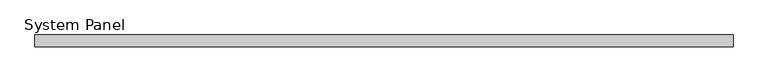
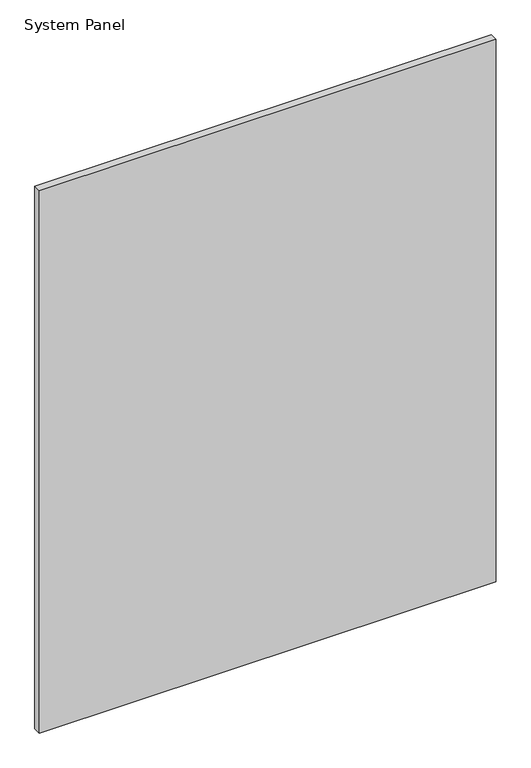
"""IFC4 building model written with IfcOpenShell, lengths in millimetres: plate geometry, System Panel : Panel_Glazed_Generic Showcase_30mm."""

from ifc_helpers import new_model, si_unit, origin, origin_with_axes, place, context, project, spatial, polyline, outline, extrude, source, transform, mapped, element, save


def system_panel_ba7213d4(model_context):
    return source(origin(), model_context, "Body", "SweptSolid", [
        extrude(outline(polyline([(875.9897739, -30.0), (-875.9897739, -30.0), (-875.9897739, 0.0), (875.9897739, 0.0), (875.9897739, -30.0)])), origin_with_axes(), (0.0, 0.0, 1.0), 2200.0),
    ])


if __name__ == "__main__":
    model = new_model("IFC4")
    model_context = context("Model", 3, world=origin())
    ifc_project = project(units=[si_unit("LENGTHUNIT", "METRE", prefix="MILLI")], contexts=[model_context])
    site = spatial("IfcSite", under=ifc_project)
    building = spatial("IfcBuilding", under=site)
    placement = place(None, origin())
    system_panel_shape = system_panel_ba7213d4(model_context)
    element("IfcPlate", 1, ObjectType="System Panel : Panel_Glazed_Generic Showcase_30mm", at=placement, inside=building, context=model_context, shape_type="MappedRepresentation", body=[
        mapped(system_panel_shape, transform((0.0, 0.0, 0.0), x_axis=(1.0, 0.0, 0.0), y_axis=(0.0, 1.0, 0.0), z_axis=(0.0, 0.0, 1.0))),
    ])
    save(model, "model.ifc")
